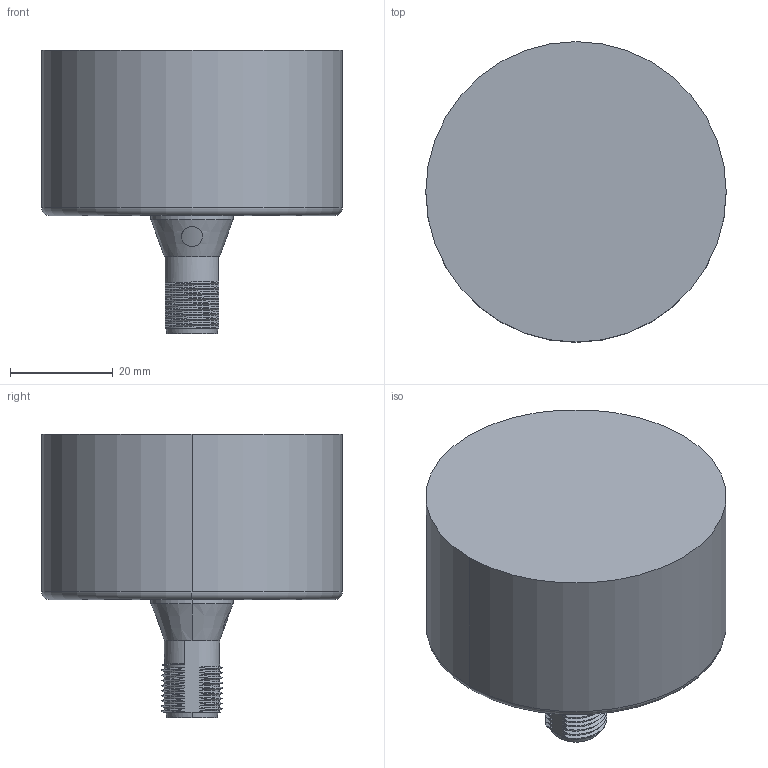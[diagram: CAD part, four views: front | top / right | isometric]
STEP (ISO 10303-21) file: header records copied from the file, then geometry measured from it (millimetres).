
FILE_DESCRIPTION (( 'STEP AP214' ), '1' );
FILE_NAME ('drawing-mc-5-ca-322-sws-12bnnn-n-pav-l.STEP', '2018-05-18T11:55:24', ( '' ), ( '' ), 'SwSTEP 2.0', 'SolidWorks 2017', '' );
FILE_SCHEMA (( 'AUTOMOTIVE_DESIGN' ));
Length unit declared in the file: millimetre
Products named in the file (1): drawing-mc-5-ca-322-sws-12bnnn-n-pav-l
Bounding box: 58.6 x 58.6 x 55.2 mm (x, y, z)
Volume: 10710.8 mm3; surface area: 25236.9 mm2
Topology: 5 solids, 5 shells, 202 faces, 591 edges, 402 vertices
Faces by surface type: cylinder 84, plane 47, bspline 44, torus 14, sphere 7, cone 6
Entity records: 21339 total; most frequent: CARTESIAN_POINT 14470, ORIENTED_EDGE 1130, DIRECTION 775, EDGE_CURVE 565, VERTEX_POINT 390, AXIS2_PLACEMENT_3D 295, EDGE_LOOP 223, UNCERTAINTY_MEASURE_WITH_UNIT 208
